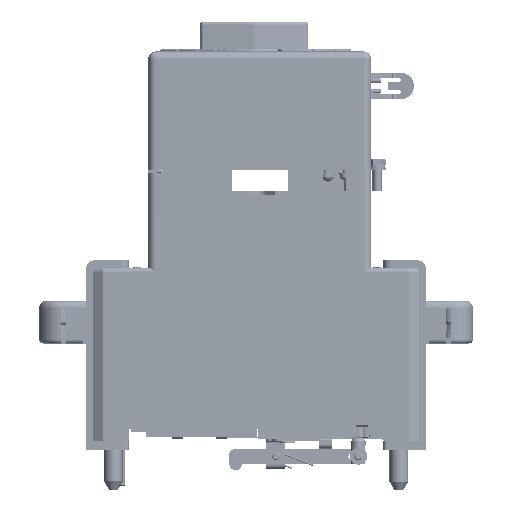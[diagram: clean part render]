
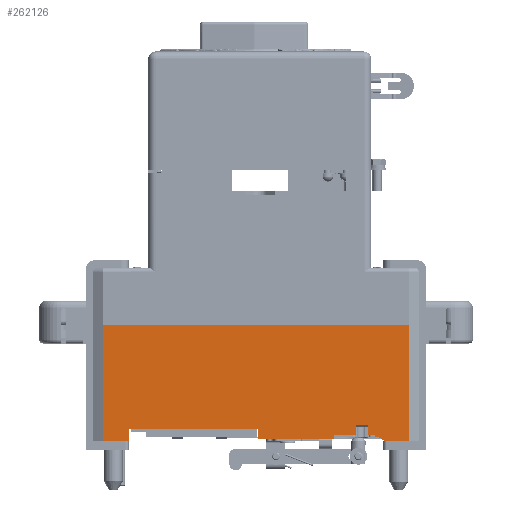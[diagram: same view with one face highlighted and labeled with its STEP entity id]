
A CAD part, left-side view. The second image highlights one B-rep face of the part: STEP entity #262126.
In plain terms, the highlighted planar face has unit normal (-1, 0, 0).
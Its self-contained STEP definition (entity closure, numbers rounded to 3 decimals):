
#389 = LINE ( 'NONE', #61233, #140633 ) ;
#5291 = VERTEX_POINT ( 'NONE', #217843 ) ;
#12873 = EDGE_CURVE ( 'NONE', #284200, #286451, #275107, .T. ) ;
#14695 = VERTEX_POINT ( 'NONE', #272091 ) ;
#15403 = LINE ( 'NONE', #320907, #77299 ) ;
#21875 = VECTOR ( 'NONE', #279108, 1000. ) ;
#29145 = VERTEX_POINT ( 'NONE', #200974 ) ;
#34830 = CARTESIAN_POINT ( 'NONE',  ( -56.146, 68.048, 5. ) ) ;
#36971 = ORIENTED_EDGE ( 'NONE', *, *, #303986, .T. ) ;
#37077 = DIRECTION ( 'NONE',  ( 0., 0., 1. ) ) ;
#37382 = EDGE_CURVE ( 'NONE', #86534, #5291, #131184, .T. ) ;
#37771 = VECTOR ( 'NONE', #131165, 1000. ) ;
#38851 = CARTESIAN_POINT ( 'NONE',  ( -56.146, -53.702, 13.16 ) ) ;
#39901 = LINE ( 'NONE', #150609, #242173 ) ;
#43067 = LINE ( 'NONE', #212329, #336006 ) ;
#46048 = LINE ( 'NONE', #262787, #37771 ) ;
#46450 = EDGE_CURVE ( 'NONE', #162675, #56870, #226787, .T. ) ;
#52778 = VECTOR ( 'NONE', #56348, 1000. ) ;
#54237 = DIRECTION ( 'NONE',  ( 0., 0., 1. ) ) ;
#54404 = FACE_OUTER_BOUND ( 'NONE', #166069, .T. ) ;
#56075 = DIRECTION ( 'NONE',  ( 0., 1., 0. ) ) ;
#56348 = DIRECTION ( 'NONE',  ( 0., -1., 0. ) ) ;
#56870 = VERTEX_POINT ( 'NONE', #235404 ) ;
#59163 = DIRECTION ( 'NONE',  ( 0., 0., -1. ) ) ;
#60316 = ORIENTED_EDGE ( 'NONE', *, *, #46450, .F. ) ;
#61233 = CARTESIAN_POINT ( 'NONE',  ( -56.146, -60.212, 13.16 ) ) ;
#61949 = VECTOR ( 'NONE', #165301, 1000. ) ;
#64479 = VECTOR ( 'NONE', #59163, 1000. ) ;
#64658 = CARTESIAN_POINT ( 'NONE',  ( -56.146, -41.892, 6.14 ) ) ;
#66461 = LINE ( 'NONE', #227424, #338768 ) ;
#67516 = ORIENTED_EDGE ( 'NONE', *, *, #334678, .F. ) ;
#67723 = EDGE_CURVE ( 'NONE', #163690, #112080, #15403, .T. ) ;
#69838 = VERTEX_POINT ( 'NONE', #161413 ) ;
#71457 = CARTESIAN_POINT ( 'NONE',  ( -56.146, -60.212, 13.16 ) ) ;
#72678 = ORIENTED_EDGE ( 'NONE', *, *, #67723, .F. ) ;
#73325 = LINE ( 'NONE', #208513, #135165 ) ;
#73340 = DIRECTION ( 'NONE',  ( 0., 0.866, 0.5 ) ) ;
#75379 = ORIENTED_EDGE ( 'NONE', *, *, #165443, .T. ) ;
#75645 = CARTESIAN_POINT ( 'NONE',  ( -56.146, 82.26, 5. ) ) ;
#77299 = VECTOR ( 'NONE', #294415, 1000. ) ;
#78780 = VERTEX_POINT ( 'NONE', #220186 ) ;
#82640 = CARTESIAN_POINT ( 'NONE',  ( -56.146, -60.212, 13.16 ) ) ;
#83563 = ORIENTED_EDGE ( 'NONE', *, *, #203541, .F. ) ;
#84044 = ORIENTED_EDGE ( 'NONE', *, *, #330779, .F. ) ;
#85313 = CARTESIAN_POINT ( 'NONE',  ( -56.146, -0.982, 6.14 ) ) ;
#85588 = ORIENTED_EDGE ( 'NONE', *, *, #251761, .F. ) ;
#86534 = VERTEX_POINT ( 'NONE', #75645 ) ;
#86663 = DIRECTION ( 'NONE',  ( 0., 0., -1. ) ) ;
#91449 = LINE ( 'NONE', #296432, #223576 ) ;
#91949 = LINE ( 'NONE', #121050, #21875 ) ;
#98372 = AXIS2_PLACEMENT_3D ( 'NONE', #262284, #104162, #288746 ) ;
#100649 = VERTEX_POINT ( 'NONE', #38851 ) ;
#103420 = DIRECTION ( 'NONE',  ( 0., 1., 0. ) ) ;
#104162 = DIRECTION ( 'NONE',  ( -1., 0., 0. ) ) ;
#107417 = EDGE_CURVE ( 'NONE', #310384, #100649, #331183, .T. ) ;
#111874 = DIRECTION ( 'NONE',  ( 0., 1., 0. ) ) ;
#112080 = VERTEX_POINT ( 'NONE', #260759 ) ;
#115787 = ORIENTED_EDGE ( 'NONE', *, *, #178927, .F. ) ;
#121050 = CARTESIAN_POINT ( 'NONE',  ( -56.146, -41.892, 7.84 ) ) ;
#122390 = DIRECTION ( 'NONE',  ( 0., -1., 0. ) ) ;
#122661 = EDGE_CURVE ( 'NONE', #317132, #162675, #322331, .T. ) ;
#131165 = DIRECTION ( 'NONE',  ( 0., 1., 0. ) ) ;
#131184 = LINE ( 'NONE', #161340, #52778 ) ;
#134757 = VECTOR ( 'NONE', #315909, 1000. ) ;
#135165 = VECTOR ( 'NONE', #103420, 1000. ) ;
#137884 = VERTEX_POINT ( 'NONE', #168244 ) ;
#140633 = VECTOR ( 'NONE', #86663, 1000. ) ;
#146802 = CARTESIAN_POINT ( 'NONE',  ( -56.146, -41.892, 6.14 ) ) ;
#150609 = CARTESIAN_POINT ( 'NONE',  ( -56.146, 48.247, 72.573 ) ) ;
#155778 = ORIENTED_EDGE ( 'NONE', *, *, #278712, .T. ) ;
#161340 = CARTESIAN_POINT ( 'NONE',  ( -56.146, 87.26, 5. ) ) ;
#161411 = EDGE_CURVE ( 'NONE', #163690, #78780, #332345, .T. ) ;
#161413 = CARTESIAN_POINT ( 'NONE',  ( -56.146, -53.702, 7.84 ) ) ;
#162675 = VERTEX_POINT ( 'NONE', #85313 ) ;
#163690 = VERTEX_POINT ( 'NONE', #328818 ) ;
#164152 = CARTESIAN_POINT ( 'NONE',  ( -56.146, 82.26, 5. ) ) ;
#165301 = DIRECTION ( 'NONE',  ( 0., 0., -1. ) ) ;
#165443 = EDGE_CURVE ( 'NONE', #29145, #287847, #66461, .T. ) ;
#166069 = EDGE_LOOP ( 'NONE', ( #84044, #83563, #60316, #281260, #85588, #168377, #327886, #234036, #318621, #72678, #210629, #115787, #67516, #75379, #155778, #286737, #36971, #297968 ) ) ;
#167120 = VECTOR ( 'NONE', #192940, 1000. ) ;
#167400 = CARTESIAN_POINT ( 'NONE',  ( -56.146, -0.982, 5. ) ) ;
#168244 = CARTESIAN_POINT ( 'NONE',  ( -56.146, 68.048, 11.51 ) ) ;
#168377 = ORIENTED_EDGE ( 'NONE', *, *, #170887, .F. ) ;
#170887 = EDGE_CURVE ( 'NONE', #69838, #14695, #91449, .T. ) ;
#173347 = DIRECTION ( 'NONE',  ( 0., 1., 0. ) ) ;
#175390 = LINE ( 'NONE', #34830, #167120 ) ;
#178927 = EDGE_CURVE ( 'NONE', #233601, #78780, #73325, .T. ) ;
#192099 = VECTOR ( 'NONE', #234000, 1000. ) ;
#192940 = DIRECTION ( 'NONE',  ( 0., 0., -1. ) ) ;
#200974 = CARTESIAN_POINT ( 'NONE',  ( -56.146, -68.792, 5. ) ) ;
#202368 = LINE ( 'NONE', #323300, #61949 ) ;
#203541 = EDGE_CURVE ( 'NONE', #56870, #137884, #46048, .T. ) ;
#208513 = CARTESIAN_POINT ( 'NONE',  ( -56.146, 87.26, 7.07 ) ) ;
#210629 = ORIENTED_EDGE ( 'NONE', *, *, #161411, .T. ) ;
#212329 = CARTESIAN_POINT ( 'NONE',  ( -56.146, -82.225, 5. ) ) ;
#217843 = CARTESIAN_POINT ( 'NONE',  ( -56.146, 68.048, 5. ) ) ;
#220186 = CARTESIAN_POINT ( 'NONE',  ( -56.146, -63.802, 7.07 ) ) ;
#223576 = VECTOR ( 'NONE', #111874, 1000. ) ;
#226787 = LINE ( 'NONE', #167400, #288612 ) ;
#227424 = CARTESIAN_POINT ( 'NONE',  ( -56.146, 87.26, 5. ) ) ;
#233601 = VERTEX_POINT ( 'NONE', #256203 ) ;
#234000 = DIRECTION ( 'NONE',  ( 0., 0., -1. ) ) ;
#234036 = ORIENTED_EDGE ( 'NONE', *, *, #107417, .F. ) ;
#234237 = CARTESIAN_POINT ( 'NONE',  ( -56.146, -82.225, 5. ) ) ;
#235125 = CARTESIAN_POINT ( 'NONE',  ( -56.146, -63.802, 7.84 ) ) ;
#235404 = CARTESIAN_POINT ( 'NONE',  ( -56.146, -0.982, 11.51 ) ) ;
#236452 = CARTESIAN_POINT ( 'NONE',  ( -56.146, 87.26, 67.07 ) ) ;
#236764 = CARTESIAN_POINT ( 'NONE',  ( -56.146, 82.26, 67.07 ) ) ;
#242173 = VECTOR ( 'NONE', #73340, 1000. ) ;
#251761 = EDGE_CURVE ( 'NONE', #14695, #317132, #91949, .T. ) ;
#256203 = CARTESIAN_POINT ( 'NONE',  ( -56.146, -65.207, 7.07 ) ) ;
#260759 = CARTESIAN_POINT ( 'NONE',  ( -56.146, -60.212, 7.84 ) ) ;
#262126 = ADVANCED_FACE ( 'NONE', ( #54404 ), #287639, .T. ) ;
#262284 = CARTESIAN_POINT ( 'NONE',  ( -56.146, 87.26, 5. ) ) ;
#262787 = CARTESIAN_POINT ( 'NONE',  ( -56.146, -0.982, 11.51 ) ) ;
#272091 = CARTESIAN_POINT ( 'NONE',  ( -56.146, -41.892, 7.84 ) ) ;
#274054 = EDGE_CURVE ( 'NONE', #100649, #69838, #202368, .T. ) ;
#275005 = LINE ( 'NONE', #164152, #64479 ) ;
#275107 = LINE ( 'NONE', #236452, #134757 ) ;
#278712 = EDGE_CURVE ( 'NONE', #287847, #286451, #43067, .T. ) ;
#279108 = DIRECTION ( 'NONE',  ( 0., 0., -1. ) ) ;
#281260 = ORIENTED_EDGE ( 'NONE', *, *, #122661, .F. ) ;
#284200 = VERTEX_POINT ( 'NONE', #236764 ) ;
#286451 = VERTEX_POINT ( 'NONE', #311130 ) ;
#286737 = ORIENTED_EDGE ( 'NONE', *, *, #12873, .F. ) ;
#287639 = PLANE ( 'NONE',  #98372 ) ;
#287847 = VERTEX_POINT ( 'NONE', #234237 ) ;
#288612 = VECTOR ( 'NONE', #37077, 1000. ) ;
#288746 = DIRECTION ( 'NONE',  ( 0., -1., 0. ) ) ;
#294415 = DIRECTION ( 'NONE',  ( 0., 1., 0. ) ) ;
#296432 = CARTESIAN_POINT ( 'NONE',  ( -56.146, -53.702, 7.84 ) ) ;
#297968 = ORIENTED_EDGE ( 'NONE', *, *, #37382, .T. ) ;
#303986 = EDGE_CURVE ( 'NONE', #284200, #86534, #275005, .T. ) ;
#310384 = VERTEX_POINT ( 'NONE', #71457 ) ;
#311130 = CARTESIAN_POINT ( 'NONE',  ( -56.146, -82.225, 67.07 ) ) ;
#311519 = EDGE_CURVE ( 'NONE', #310384, #112080, #389, .T. ) ;
#314041 = VECTOR ( 'NONE', #173347, 1000. ) ;
#315909 = DIRECTION ( 'NONE',  ( 0., -1., 0. ) ) ;
#317132 = VERTEX_POINT ( 'NONE', #64658 ) ;
#318621 = ORIENTED_EDGE ( 'NONE', *, *, #311519, .T. ) ;
#320907 = CARTESIAN_POINT ( 'NONE',  ( -56.146, -63.802, 7.84 ) ) ;
#322331 = LINE ( 'NONE', #146802, #314041 ) ;
#322931 = VECTOR ( 'NONE', #56075, 1000. ) ;
#323300 = CARTESIAN_POINT ( 'NONE',  ( -56.146, -53.702, 13.16 ) ) ;
#327886 = ORIENTED_EDGE ( 'NONE', *, *, #274054, .F. ) ;
#328818 = CARTESIAN_POINT ( 'NONE',  ( -56.146, -63.802, 7.84 ) ) ;
#330779 = EDGE_CURVE ( 'NONE', #137884, #5291, #175390, .T. ) ;
#331183 = LINE ( 'NONE', #82640, #322931 ) ;
#332345 = LINE ( 'NONE', #235125, #192099 ) ;
#334678 = EDGE_CURVE ( 'NONE', #29145, #233601, #39901, .T. ) ;
#336006 = VECTOR ( 'NONE', #54237, 1000. ) ;
#338768 = VECTOR ( 'NONE', #122390, 1000. ) ;
